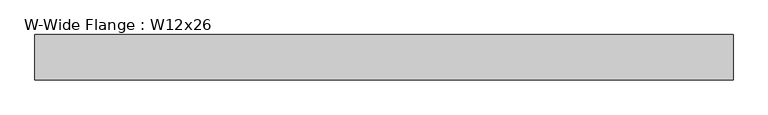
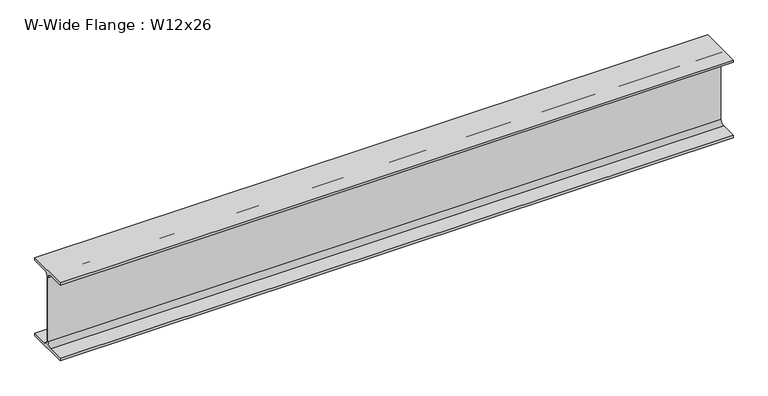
"""IFC4 building model written with IfcOpenShell, lengths in millimetres: beam geometry, W-Wide Flange : W12x26."""

import ifcopenshell
import ifcopenshell.guid

model = None  # the IFC model being written
_history = None  # IfcOwnerHistory: only IFC2X3 demands one
_inside = {}  # id of a spatial element -> (the spatial element, [elements in it])
_under = {}  # id of a project, library or spatial element -> (it, [spatial elements below it])
_declared = {}  # id of a project -> (the project, [libraries it declares])
_typed = {}  # id of a type object -> (the type object, [elements of that type])
_made_of = {}  # id of a material, layer set ... -> (it, [elements and type objects made of it])


def new_model(schema):
    """Start an empty IFC model of exactly this schema.

    Asked for "IFC4X3", IfcOpenShell would pick the latest addendum, in which some entities
    have other attributes; the version numbers below select the first issue.
    IFC2X3 requires an IfcOwnerHistory on every rooted entity: one is made here for all.
    """
    global model, _history
    if schema == "IFC4X3":
        model = ifcopenshell.file(schema_version=(4, 3, 0, 0))
    else:
        model = ifcopenshell.file(schema=schema)
    _inside.clear()
    _under.clear()
    _declared.clear()
    _typed.clear()
    _made_of.clear()
    _history = None
    if model.schema == "IFC2X3":
        org = make("IfcOrganization", Name="unknown")
        user = make(
            "IfcPersonAndOrganization",
            ThePerson=make("IfcPerson", FamilyName="unknown"),
            TheOrganization=org,
        )
        app = make(
            "IfcApplication",
            ApplicationDeveloper=org,
            Version="unknown",
            ApplicationFullName="unknown",
            ApplicationIdentifier="unknown",
        )
        _history = make(
            "IfcOwnerHistory",
            OwningUser=user,
            OwningApplication=app,
            ChangeAction="ADDED",
            CreationDate=0,
        )
    return model


def make(cls, **values):
    """One entity of the class cls with the attributes given. An attribute that is None is left unset."""
    return model.create_entity(
        cls, **{name: value for name, value in values.items() if value is not None}
    )


def rooted(cls, **values):
    """An entity with a GlobalId (a new one), such as an element, a storey or a relation."""
    return make(cls, GlobalId=ifcopenshell.guid.new(), OwnerHistory=_history, **values)


def si_unit(unit_type, name, prefix=None):
    """IfcSIUnit, for example si_unit("LENGTHUNIT", "METRE", prefix="MILLI")."""
    return make("IfcSIUnit", UnitType=unit_type, Prefix=prefix, Name=name)


def assignment(units):
    """IfcUnitAssignment: the units of a project."""
    return None if units is None else make("IfcUnitAssignment", Units=units)


def point(xyz):
    """IfcCartesianPoint."""
    return None if xyz is None else make("IfcCartesianPoint", Coordinates=xyz)


def direction(xyz):
    """IfcDirection."""
    return None if xyz is None else make("IfcDirection", DirectionRatios=xyz)


def frame(location, z_axis=None, x_axis=None):
    """IfcAxis2Placement3D, a coordinate frame: its origin and axes. An axis left out is left unset."""
    return make(
        "IfcAxis2Placement3D",
        Location=point(location),
        Axis=direction(z_axis),
        RefDirection=direction(x_axis),
    )


def frame_2d(location, x_axis=None):
    """IfcAxis2Placement2D, a coordinate frame in the plane: its origin and x axis."""
    return make(
        "IfcAxis2Placement2D", Location=point(location), RefDirection=direction(x_axis)
    )


def origin():
    """The frame at (0, 0, 0) with its axes left unset."""
    return frame((0.0, 0.0, 0.0))


def place(relative_to, where):
    """IfcLocalPlacement: puts the frame where relative to a parent placement (None: the world)."""
    return make(
        "IfcLocalPlacement", PlacementRelTo=relative_to, RelativePlacement=where
    )


def context(
    kind, dimensions, precision=None, world=None, true_north=None, identifier=None
):
    """IfcGeometricRepresentationContext, for example the 3D "Model" context."""
    return make(
        "IfcGeometricRepresentationContext",
        ContextIdentifier=identifier,
        ContextType=kind,
        CoordinateSpaceDimension=dimensions,
        Precision=precision,
        WorldCoordinateSystem=world,
        TrueNorth=true_north,
    )


def project(units=None, contexts=None):
    """IfcProject with its units and contexts."""
    return rooted(
        "IfcProject",
        Name="project",
        RepresentationContexts=contexts,
        UnitsInContext=assignment(units),
    )


def spatial(cls, under=None, at=None, **own):
    """A site, building, storey or space (cls), placed at a placement, below another one or the project."""
    s = rooted(cls, ObjectPlacement=at, **own)
    if under is not None:
        _under.setdefault(under.id(), (under, []))[1].append(s)
    return s


def polyline(points):
    """IfcPolyline through the points."""
    return make("IfcPolyline", Points=[point(p) for p in points])


def circle_curve(where, radius):
    """IfcCircle in the frame where."""
    return make("IfcCircle", Position=where, Radius=radius)


def trimmed(basis, trim1, trim2, sense, master):
    """IfcTrimmedCurve: the piece of a basis curve between two trims."""
    return make(
        "IfcTrimmedCurve",
        BasisCurve=basis,
        Trim1=trim1,
        Trim2=trim2,
        SenseAgreement=sense,
        MasterRepresentation=master,
    )


def segment(curve, same_sense, transition):
    """IfcCompositeCurveSegment."""
    return make(
        "IfcCompositeCurveSegment",
        Transition=transition,
        SameSense=same_sense,
        ParentCurve=curve,
    )


def composite_curve(segments, self_intersect=None):
    """IfcCompositeCurve: segments joined end to end."""
    return make("IfcCompositeCurve", Segments=segments, SelfIntersect=self_intersect)


def outline(outer, holes=None, kind="AREA"):
    """IfcArbitraryClosedProfileDef: a profile drawn as a closed curve; with holes, ...WithVoids."""
    if holes is None:
        return make("IfcArbitraryClosedProfileDef", ProfileType=kind, OuterCurve=outer)
    return make(
        "IfcArbitraryProfileDefWithVoids",
        ProfileType=kind,
        OuterCurve=outer,
        InnerCurves=holes,
    )


def extrude(swept, where, along, depth):
    """IfcExtrudedAreaSolid: the profile swept, set in the frame where, extruded along a direction by depth."""
    return make(
        "IfcExtrudedAreaSolid",
        SweptArea=swept,
        Position=where,
        ExtrudedDirection=direction(along),
        Depth=depth,
    )


def shape(context_of_items, identifier, shape_type, items):
    """IfcShapeRepresentation: the items that make up one representation, for example the "Body"."""
    return make(
        "IfcShapeRepresentation",
        ContextOfItems=context_of_items,
        RepresentationIdentifier=identifier,
        RepresentationType=shape_type,
        Items=items,
    )


def source(mapping_origin, context_of_items, identifier, shape_type, items):
    """IfcRepresentationMap: a shape defined once, which mapped items show again and again."""
    return make(
        "IfcRepresentationMap",
        MappingOrigin=mapping_origin,
        MappedRepresentation=shape(context_of_items, identifier, shape_type, items),
    )


def transform(
    local_origin,
    x_axis=None,
    y_axis=None,
    z_axis=None,
    scale=None,
    scale2=None,
    scale3=None,
    uniform=True,
):
    """IfcCartesianTransformationOperator3D, or its non-uniform kind. x_axis, y_axis, z_axis: its Axis1, 2, 3."""
    if uniform:
        return make(
            "IfcCartesianTransformationOperator3D",
            Axis1=direction(x_axis),
            Axis2=direction(y_axis),
            LocalOrigin=point(local_origin),
            Scale=scale,
            Axis3=direction(z_axis),
        )
    return make(
        "IfcCartesianTransformationOperator3DnonUniform",
        Axis1=direction(x_axis),
        Axis2=direction(y_axis),
        LocalOrigin=point(local_origin),
        Scale=scale,
        Axis3=direction(z_axis),
        Scale2=scale2,
        Scale3=scale3,
    )


def mapped(mapping_source, mapping_target):
    """IfcMappedItem: shows the shape of a source again, moved by a transform."""
    return make(
        "IfcMappedItem", MappingSource=mapping_source, MappingTarget=mapping_target
    )


def made_of(thing, what):
    """Note that an element or type object is made of a material, layer set ...; save() writes the relation."""
    if what is not None:
        _made_of.setdefault(what.id(), (what, []))[1].append(thing)
    return thing


def element(
    cls,
    number,
    at=None,
    inside=None,
    cuts=None,
    type_object=None,
    material=None,
    context=None,
    identifier="Body",
    shape_type=None,
    held_by="IfcProductDefinitionShape",
    body=None,
    shapes=None,
    **own,
):
    """One element of the class cls, such as IfcWall. Its Tag is "e" and its number.

    at: its placement. inside: the storey or other place that contains it. cuts: it is an
    opening in that element (IfcRelVoidsElement). A single representation is given by context,
    identifier, shape_type and body (its items); several are given by shapes. held_by: the class
    of the entity that holds the representations. save() writes the other relations.
    """
    e = rooted(cls, Tag="e%d" % number, ObjectPlacement=at, **own)
    if body is not None:
        shapes = [shape(context, identifier, shape_type, body)]
    if shapes is not None:
        e.Representation = make(held_by, Representations=shapes)
    if inside is not None:
        _inside.setdefault(inside.id(), (inside, []))[1].append(e)
    if cuts is not None:
        rooted(
            "IfcRelVoidsElement", RelatingBuildingElement=cuts, RelatedOpeningElement=e
        )
    if type_object is not None:
        _typed.setdefault(type_object.id(), (type_object, []))[1].append(e)
    return made_of(e, material)


def aggregate(whole, parts):
    """IfcRelAggregates: a whole, such as a stair, and the parts it consists of."""
    return rooted("IfcRelAggregates", RelatingObject=whole, RelatedObjects=parts)


def save(model, path):
    """Write the relations noted so far, then the file.

    IfcRelAggregates (storeys below a building ...), IfcRelContainedInSpatialStructure (elements
    in a storey), IfcRelDefinesByType, IfcRelAssociatesMaterial and IfcRelDeclares: one each for
    every whole, place, type object, material and project.
    """
    for whole, parts in _under.values():
        aggregate(whole, parts)
    for where, things in _inside.values():
        rooted(
            "IfcRelContainedInSpatialStructure",
            RelatedElements=things,
            RelatingStructure=where,
        )
    for kind, things in _typed.values():
        rooted("IfcRelDefinesByType", RelatedObjects=things, RelatingType=kind)
    for what, things in _made_of.values():
        rooted("IfcRelAssociatesMaterial", RelatedObjects=things, RelatingMaterial=what)
    for by, libraries in _declared.values():
        rooted("IfcRelDeclares", RelatingContext=by, RelatedDefinitions=libraries)
    model.write(path)


def w_wide_flange_w12x26_4f900ce5(model_context):
    return source(origin(), model_context, "Body", "SweptSolid", [
        extrude(outline(composite_curve([segment(polyline([(82.423, -145.288), (82.423, -154.94), (-82.423, -154.94), (-82.423, -145.288), (-20.2565, -145.288)]), True, "CONTINUOUS"), segment(trimmed(circle_curve(frame_2d((-20.2565, -127.9525)), 17.3355), [point((-20.2565, -145.288))], [point((-2.921, -127.9525))], True, "CARTESIAN"), True, "CONTINUOUS"), segment(polyline([(-2.921, -127.9525), (-2.921, 127.9525)]), True, "CONTINUOUS"), segment(trimmed(circle_curve(frame_2d((-20.2565, 127.9525)), 17.3355), [point((-2.921, 127.9525))], [point((-20.2565, 145.288))], True, "CARTESIAN"), True, "CONTINUOUS"), segment(polyline([(-20.2565, 145.288), (-82.423, 145.288), (-82.423, 154.94), (82.423, 154.94), (82.423, 145.288), (20.2565, 145.288)]), True, "CONTINUOUS"), segment(trimmed(circle_curve(frame_2d((20.2565, 127.9525)), 17.3355), [point((20.2565, 145.288))], [point((2.921, 127.9525))], True, "CARTESIAN"), True, "CONTINUOUS"), segment(polyline([(2.921, 127.9525), (2.921, -127.9525)]), True, "CONTINUOUS"), segment(trimmed(circle_curve(frame_2d((20.2565, -127.9525)), 17.3355), [point((2.921, -127.9525))], [point((20.2565, -145.288))], True, "CARTESIAN"), True, "CONTINUOUS"), segment(polyline([(20.2565, -145.288), (82.423, -145.288)]), True, "CONTINUOUS")], self_intersect=False)), frame((-1254.5695, 0.0, 0.0), z_axis=(1.0, 0.0, 0.0), x_axis=(0.0, 1.0, 0.0)), (0.0, 0.0, 1.0), 2532.888),
    ])


if __name__ == "__main__":
    model = new_model("IFC4")
    model_context = context("Model", 3, world=origin())
    ifc_project = project(units=[si_unit("LENGTHUNIT", "METRE", prefix="MILLI")], contexts=[model_context])
    site = spatial("IfcSite", under=ifc_project)
    building = spatial("IfcBuilding", under=site)
    placement = place(None, origin())
    w_wide_flange_w12x26_shape = w_wide_flange_w12x26_4f900ce5(model_context)
    element("IfcBeam", 1, ObjectType="W-Wide Flange : W12x26", at=placement, inside=building, context=model_context, shape_type="MappedRepresentation", body=[
        mapped(w_wide_flange_w12x26_shape, transform((0.0, 0.0, 0.0), x_axis=(1.0, 0.0, 0.0), y_axis=(0.0, 1.0, 0.0), z_axis=(0.0, 0.0, 1.0))),
    ])
    save(model, "model.ifc")
